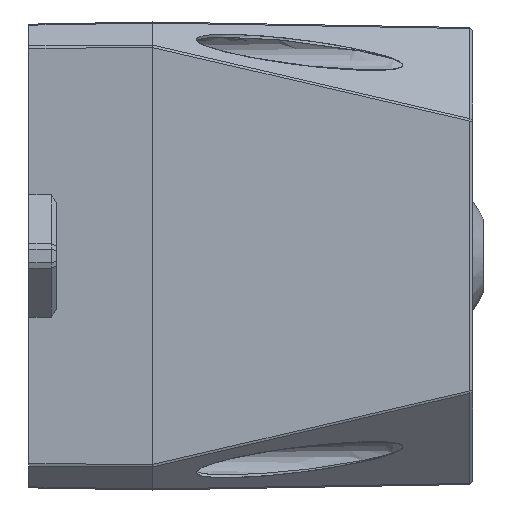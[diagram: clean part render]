
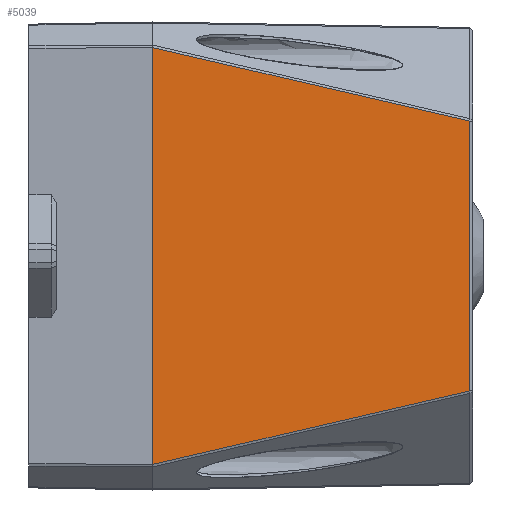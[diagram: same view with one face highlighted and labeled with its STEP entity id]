
A CAD part, left-side view. The second image highlights one B-rep face of the part: STEP entity #5039.
In plain terms, the highlighted planar face has unit normal (-1, -0.018, 0).
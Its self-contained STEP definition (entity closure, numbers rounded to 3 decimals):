
#102=PLANE('',#5802);
#357=FACE_OUTER_BOUND('',#562,.T.);
#562=EDGE_LOOP('',(#4287,#4288,#4289,#4290));
#1241=LINE('',#19530,#1699);
#1242=LINE('',#19532,#1700);
#1243=LINE('',#19534,#1701);
#1244=LINE('',#19535,#1702);
#1699=VECTOR('',#6630,10.);
#1700=VECTOR('',#6631,10.);
#1701=VECTOR('',#6632,10.);
#1702=VECTOR('',#6633,78.457);
#2475=VERTEX_POINT('',#19528);
#2476=VERTEX_POINT('',#19529);
#2477=VERTEX_POINT('',#19531);
#2478=VERTEX_POINT('',#19533);
#3381=EDGE_CURVE('',#2475,#2476,#1241,.T.);
#3382=EDGE_CURVE('',#2476,#2477,#1242,.T.);
#3383=EDGE_CURVE('',#2477,#2478,#1243,.T.);
#3384=EDGE_CURVE('',#2478,#2475,#1244,.T.);
#4287=ORIENTED_EDGE('',*,*,#3381,.T.);
#4288=ORIENTED_EDGE('',*,*,#3382,.T.);
#4289=ORIENTED_EDGE('',*,*,#3383,.T.);
#4290=ORIENTED_EDGE('',*,*,#3384,.T.);
#5039=ADVANCED_FACE('',(#357),#102,.T.);
#5802=AXIS2_PLACEMENT_3D('',#19527,#6628,#6629);
#6628=DIRECTION('center_axis',(-1.,-0.017,0.));
#6629=DIRECTION('ref_axis',(0.,0.,1.));
#6630=DIRECTION('',(-0.017,0.974,0.226));
#6631=DIRECTION('',(0.,0.,-1.));
#6632=DIRECTION('',(0.017,-0.974,0.226));
#6633=DIRECTION('',(0.,0.,1.));
#19527=CARTESIAN_POINT('Origin',(-67.197,-46.009,-61.295));
#19528=CARTESIAN_POINT('',(-66.394,-92.017,39.228));
#19529=CARTESIAN_POINT('',(-68.,0.,60.568));
#19530=CARTESIAN_POINT('',(-66.394,-92.017,39.228));
#19531=CARTESIAN_POINT('',(-68.,0.,-60.568));
#19532=CARTESIAN_POINT('',(-68.,0.,60.568));
#19533=CARTESIAN_POINT('',(-66.394,-92.017,-39.229));
#19534=CARTESIAN_POINT('',(-68.,0.,-60.568));
#19535=CARTESIAN_POINT('',(-66.394,-92.017,-39.229));
